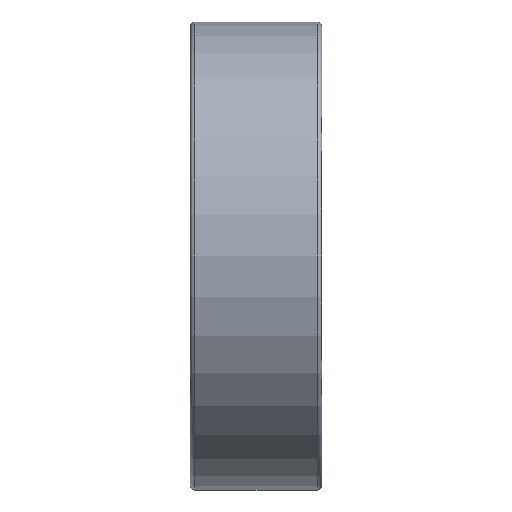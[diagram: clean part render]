
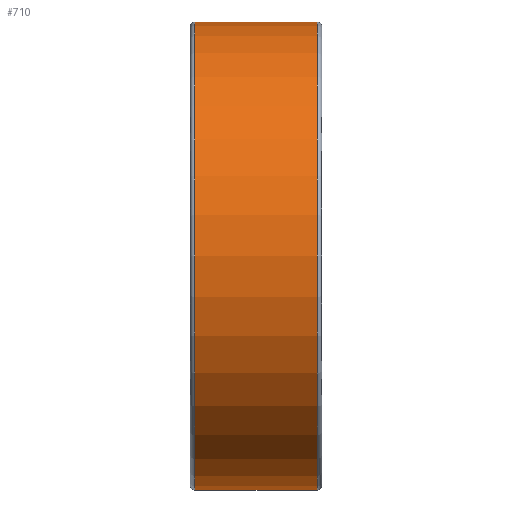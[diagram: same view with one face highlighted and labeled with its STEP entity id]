
A CAD part, front view. The second image highlights one B-rep face of the part: STEP entity #710.
In plain terms, the highlighted cylindrical face has radius 16 mm (diameter 32 mm), a full revolution.
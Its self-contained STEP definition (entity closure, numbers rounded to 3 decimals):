
#42=LINE('',#1365,#48);
#48=VECTOR('',#1116,16.);
#54=CYLINDRICAL_SURFACE('',#863,16.);
#124=FACE_OUTER_BOUND('',#182,.T.);
#182=EDGE_LOOP('',(#634,#635,#636,#637,#638,#639));
#270=CIRCLE('',#858,16.);
#271=CIRCLE('',#859,16.);
#274=CIRCLE('',#864,16.);
#275=CIRCLE('',#865,16.);
#374=VERTEX_POINT('',#1353);
#375=VERTEX_POINT('',#1354);
#377=VERTEX_POINT('',#1362);
#378=VERTEX_POINT('',#1363);
#463=EDGE_CURVE('',#374,#375,#270,.T.);
#464=EDGE_CURVE('',#375,#374,#271,.T.);
#467=EDGE_CURVE('',#377,#378,#274,.T.);
#468=EDGE_CURVE('',#377,#375,#42,.T.);
#469=EDGE_CURVE('',#378,#377,#275,.T.);
#634=ORIENTED_EDGE('',*,*,#467,.F.);
#635=ORIENTED_EDGE('',*,*,#468,.T.);
#636=ORIENTED_EDGE('',*,*,#463,.F.);
#637=ORIENTED_EDGE('',*,*,#464,.F.);
#638=ORIENTED_EDGE('',*,*,#468,.F.);
#639=ORIENTED_EDGE('',*,*,#469,.F.);
#710=ADVANCED_FACE('',(#124),#54,.T.);
#858=AXIS2_PLACEMENT_3D('',#1355,#1102,#1103);
#859=AXIS2_PLACEMENT_3D('',#1356,#1104,#1105);
#863=AXIS2_PLACEMENT_3D('',#1361,#1112,#1113);
#864=AXIS2_PLACEMENT_3D('',#1364,#1114,#1115);
#865=AXIS2_PLACEMENT_3D('',#1366,#1117,#1118);
#1102=DIRECTION('center_axis',(-1.,0.,0.));
#1103=DIRECTION('ref_axis',(0.,-1.,0.));
#1104=DIRECTION('center_axis',(-1.,0.,0.));
#1105=DIRECTION('ref_axis',(0.,-1.,0.));
#1112=DIRECTION('center_axis',(1.,0.,0.));
#1113=DIRECTION('ref_axis',(0.,1.,0.));
#1114=DIRECTION('center_axis',(1.,0.,0.));
#1115=DIRECTION('ref_axis',(0.,-1.,0.));
#1116=DIRECTION('',(-1.,0.,0.));
#1117=DIRECTION('center_axis',(1.,0.,0.));
#1118=DIRECTION('ref_axis',(0.,-1.,0.));
#1353=CARTESIAN_POINT('',(0.3,0.,16.));
#1354=CARTESIAN_POINT('',(0.3,-16.,0.));
#1355=CARTESIAN_POINT('Origin',(0.3,0.,0.));
#1356=CARTESIAN_POINT('Origin',(0.3,0.,0.));
#1361=CARTESIAN_POINT('Origin',(4.5,0.,0.));
#1362=CARTESIAN_POINT('',(8.7,-16.,0.));
#1363=CARTESIAN_POINT('',(8.7,0.,16.));
#1364=CARTESIAN_POINT('Origin',(8.7,0.,0.));
#1365=CARTESIAN_POINT('',(4.5,-16.,0.));
#1366=CARTESIAN_POINT('Origin',(8.7,0.,0.));
